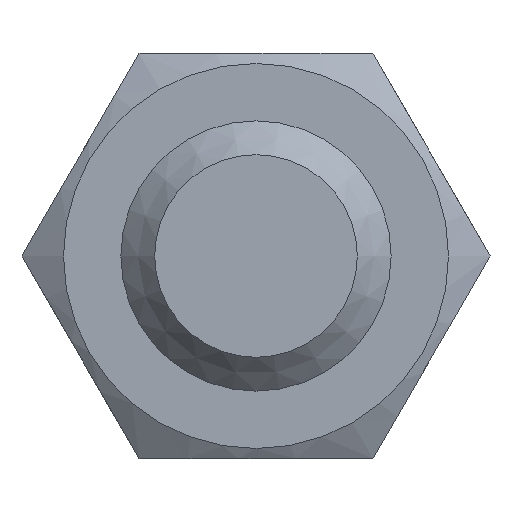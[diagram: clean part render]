
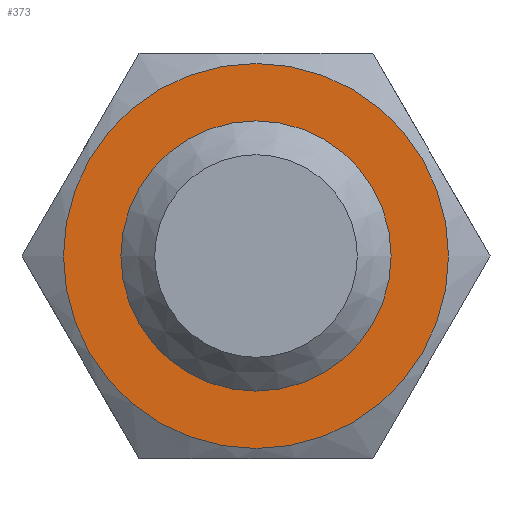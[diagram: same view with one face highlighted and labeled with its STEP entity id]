
A CAD part, left-side view. The second image highlights one B-rep face of the part: STEP entity #373.
In plain terms, the highlighted planar face has unit normal (-1, 0, 0) as drawn and (0, 0, 1) by its records, which use the part's own axes.
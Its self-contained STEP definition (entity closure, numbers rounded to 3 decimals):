
#373=ADVANCED_FACE('',(#668,#670),#672,.T.);
#668=FACE_BOUND('',#669,.T.);
#669=EDGE_LOOP('',(#845));
#670=FACE_BOUND('',#671,.T.);
#671=EDGE_LOOP('',(#846));
#672=PLANE('',#673);
#673=AXIS2_PLACEMENT_3D('',#674,#675,#676);
#674=CARTESIAN_POINT('',(0.,0.,14.8));
#675=DIRECTION('',(0.,0.,1.));
#676=DIRECTION('',(1.,0.,0.));
#845=ORIENTED_EDGE('',*,*,#927,.T.);
#846=ORIENTED_EDGE('',*,*,#928,.T.);
#927=EDGE_CURVE('',#1058,#1058,#1059,.F.);
#928=EDGE_CURVE('',#1060,#1060,#1061,.F.);
#1058=VERTEX_POINT('',#2332);
#1059=CIRCLE('',#2333,11.4);
#1060=VERTEX_POINT('',#2337);
#1061=CIRCLE('',#2338,8.);
#2332=CARTESIAN_POINT('',(0.,11.4,14.8));
#2333=AXIS2_PLACEMENT_3D('',#2334,#2335,#2336);
#2334=CARTESIAN_POINT('',(0.,0.,14.8));
#2335=DIRECTION('',(0.,0.,-1.));
#2336=DIRECTION('',(0.,1.,0.));
#2337=CARTESIAN_POINT('',(8.,0.,14.8));
#2338=AXIS2_PLACEMENT_3D('',#2339,#2340,#2341);
#2339=CARTESIAN_POINT('',(0.,0.,14.8));
#2340=DIRECTION('',(0.,0.,1.));
#2341=DIRECTION('',(1.,0.,0.));
